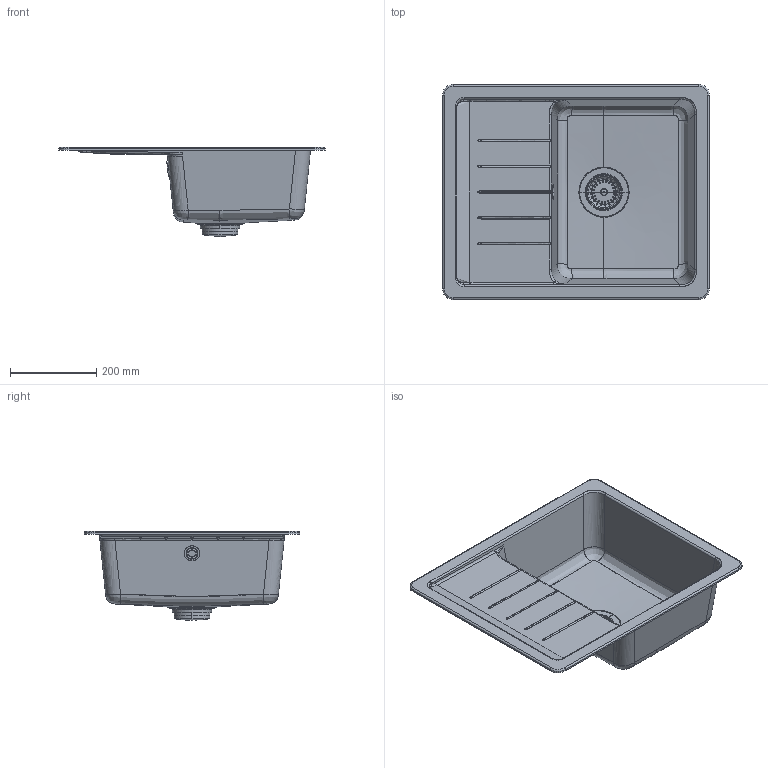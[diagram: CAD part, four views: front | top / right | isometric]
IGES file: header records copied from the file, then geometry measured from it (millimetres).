
Global section: file name: /Users/office3/Desktop/SPU; preprocessor: Trout Lake IGES 012 Dec  4 2019; date: 210309.161405; units: millimetre
Bounding box: 620 x 500 x 207.23 mm (x, y, z)
Surface area: 565731.7 mm2 (no closed solid volume)
Topology: 0 solids, 0 shells, 328 faces, 39588 edges, 39578 vertices
Faces by surface type: bspline 318, plane 10
